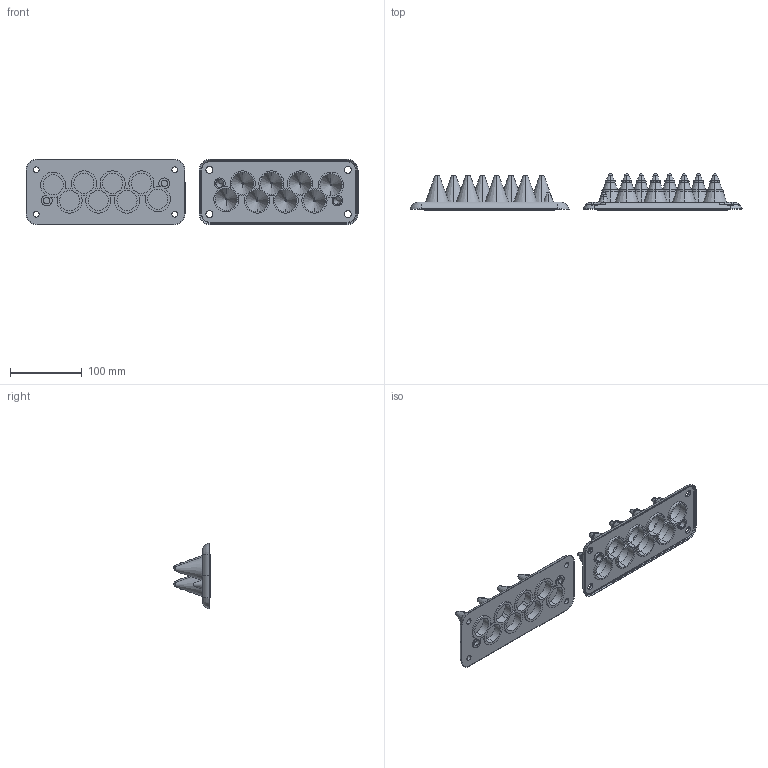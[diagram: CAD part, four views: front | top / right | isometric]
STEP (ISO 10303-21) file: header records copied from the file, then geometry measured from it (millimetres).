
FILE_DESCRIPTION (( 'STEP AP203' ), '1' );
FILE_NAME ('103552.STEP', '2012-12-11T06:08:58', ( 'Joni' ), ( 'Hewlett-Packard Company' ), 'SwSTEP 2.0', 'SolidWorks 2012', '' );
FILE_SCHEMA (( 'CONFIG_CONTROL_DESIGN' ));
Length unit declared in the file: millimetre
Products named in the file (1): 103552
Bounding box: 462.94 x 50.74 x 91.72 mm (x, y, z)
Volume: 344735.8 mm3; surface area: 149207.4 mm2
Topology: 2 solids, 2 shells, 651 faces, 1522 edges, 896 vertices
Faces by surface type: torus 211, cylinder 186, cone 120, plane 51, bspline 43, sphere 40
Entity records: 20995 total; most frequent: CARTESIAN_POINT 5738, DIRECTION 3631, ORIENTED_EDGE 3012, AXIS2_PLACEMENT_3D 1643, EDGE_CURVE 1506, CIRCLE 1034, VERTEX_POINT 896, EDGE_LOOP 704
